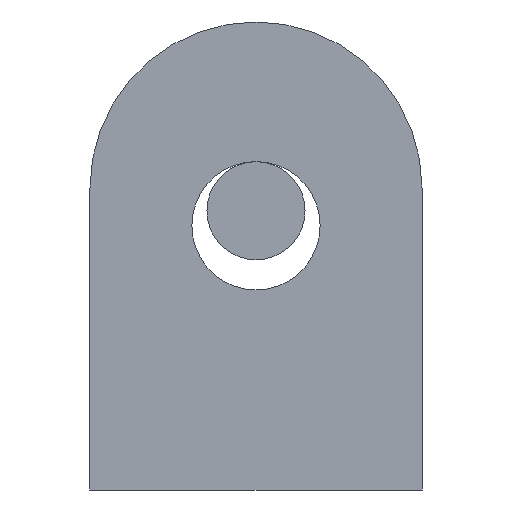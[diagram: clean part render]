
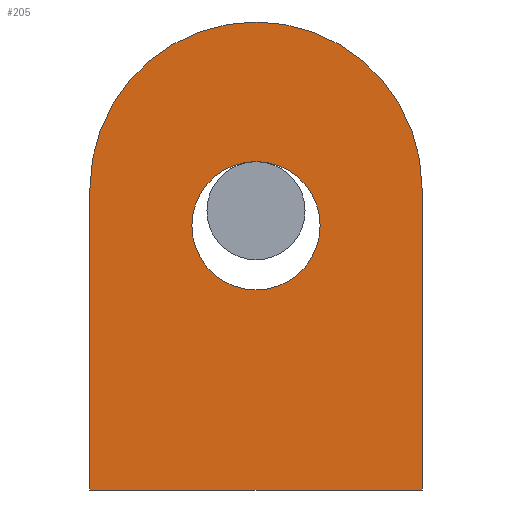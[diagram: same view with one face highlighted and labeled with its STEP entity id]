
A CAD part, left-side view. The second image highlights one B-rep face of the part: STEP entity #205.
In plain terms, the highlighted planar face has unit normal (-1, 0, 0).
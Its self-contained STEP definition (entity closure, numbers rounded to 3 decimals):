
#34=PLANE('',#254);
#44=LINE('',#354,#58);
#47=LINE('',#367,#61);
#48=LINE('',#369,#62);
#58=VECTOR('',#293,1000.);
#61=VECTOR('',#310,1000.);
#62=VECTOR('',#311,1000.);
#94=ORIENTED_EDGE('',*,*,#131,.T.);
#95=ORIENTED_EDGE('',*,*,#120,.T.);
#96=ORIENTED_EDGE('',*,*,#126,.F.);
#97=ORIENTED_EDGE('',*,*,#133,.F.);
#98=ORIENTED_EDGE('',*,*,#134,.F.);
#99=ORIENTED_EDGE('',*,*,#128,.F.);
#120=EDGE_CURVE('',#142,#143,#158,.T.);
#126=EDGE_CURVE('',#148,#149,#44,.T.);
#128=EDGE_CURVE('',#149,#150,#160,.T.);
#131=EDGE_CURVE('',#143,#142,#162,.T.);
#133=EDGE_CURVE('',#152,#148,#47,.T.);
#134=EDGE_CURVE('',#150,#152,#48,.T.);
#142=VERTEX_POINT('',#341);
#143=VERTEX_POINT('',#342);
#148=VERTEX_POINT('',#353);
#149=VERTEX_POINT('',#355);
#150=VERTEX_POINT('',#359);
#152=VERTEX_POINT('',#368);
#158=CIRCLE('',#245,34.);
#160=CIRCLE('',#249,88.);
#162=CIRCLE('',#252,34.);
#172=EDGE_LOOP('',(#94,#95));
#173=EDGE_LOOP('',(#96,#97,#98,#99));
#186=FACE_BOUND('',#172,.T.);
#187=FACE_BOUND('',#173,.T.);
#205=ADVANCED_FACE('',(#186,#187),#34,.F.);
#245=AXIS2_PLACEMENT_3D('',#340,#283,#284);
#249=AXIS2_PLACEMENT_3D('',#358,#297,#298);
#252=AXIS2_PLACEMENT_3D('',#364,#304,#305);
#254=AXIS2_PLACEMENT_3D('',#366,#308,#309);
#283=DIRECTION('',(1.,0.,0.));
#284=DIRECTION('',(0.,0.,-1.));
#293=DIRECTION('',(0.,0.,1.));
#297=DIRECTION('',(1.,0.,0.));
#298=DIRECTION('',(0.,0.,-1.));
#304=DIRECTION('',(1.,0.,0.));
#305=DIRECTION('',(0.,0.,-1.));
#308=DIRECTION('',(1.,0.,0.));
#309=DIRECTION('',(0.,1.,0.));
#310=DIRECTION('',(0.,1.,0.));
#311=DIRECTION('',(0.,0.,-1.));
#340=CARTESIAN_POINT('',(-15.,0.,0.));
#341=CARTESIAN_POINT('',(-15.,-34.,0.));
#342=CARTESIAN_POINT('',(-15.,34.,0.));
#353=CARTESIAN_POINT('',(-15.,88.,-140.));
#354=CARTESIAN_POINT('',(-15.,88.,-60.));
#355=CARTESIAN_POINT('',(-15.,88.,20.));
#358=CARTESIAN_POINT('',(-15.,0.,20.));
#359=CARTESIAN_POINT('',(-15.,-88.,20.));
#364=CARTESIAN_POINT('',(-15.,0.,0.));
#366=CARTESIAN_POINT('',(-15.,0.,0.));
#367=CARTESIAN_POINT('',(-15.,0.,-140.));
#368=CARTESIAN_POINT('',(-15.,-88.,-140.));
#369=CARTESIAN_POINT('',(-15.,-88.,-60.));
